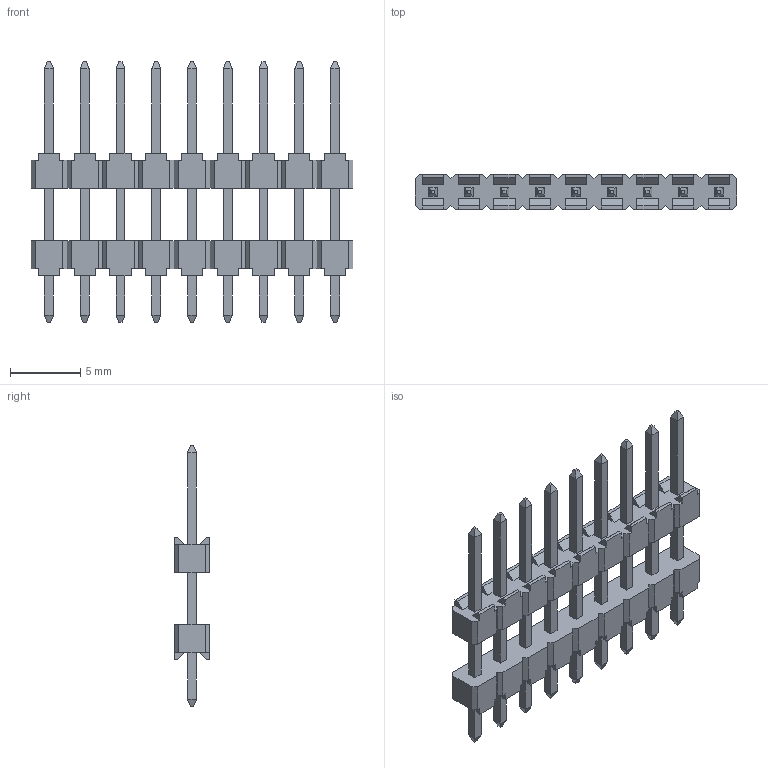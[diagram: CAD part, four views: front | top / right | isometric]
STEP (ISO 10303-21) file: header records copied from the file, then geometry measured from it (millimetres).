
FILE_DESCRIPTION(/* description */ (''),/* implementation_level */ '2;1');
FILE_NAME(/* name */ '961409-9040304-XX',/* time_stamp */ '2007-06-14T17:30:32+02:00',/* author */ (''),/* organization */ (''),/* preprocessor_version */ 'ST-DEVELOPER v9',/* originating_system */ 'UGS - NX 3.0',/* authorisation */ '');
FILE_SCHEMA (('AUTOMOTIVE_DESIGN { 1 0 10303 214 1 1 1 1 }'));
Length unit declared in the file: millimetre
Products named in the file (1): 961409-9040304-XX
Bounding box: 22.86 x 2.5 x 18.5 mm (x, y, z)
Volume: 286.2 mm3; surface area: 805.7 mm2
Topology: 1 solids, 1 shells, 498 faces, 1356 edges, 880 vertices
Faces by surface type: plane 498
Entity records: 15340 total; most frequent: CARTESIAN_POINT 2735, ORIENTED_EDGE 2712, DIRECTION 2354, EDGE_CURVE 1356, LINE 1356, VECTOR 1356, VERTEX_POINT 880, EDGE_LOOP 534
